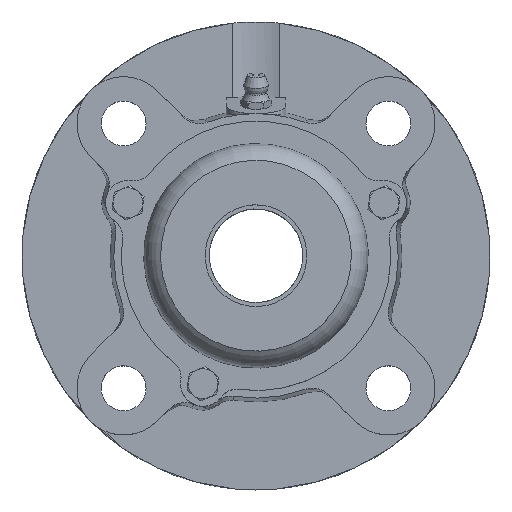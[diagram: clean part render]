
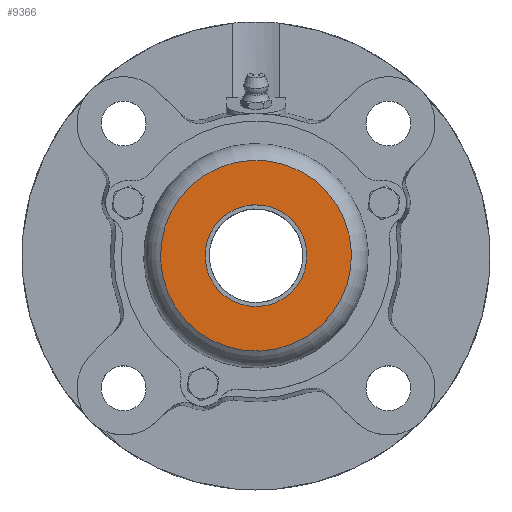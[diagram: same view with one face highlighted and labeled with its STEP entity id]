
A CAD part, top view. The second image highlights one B-rep face of the part: STEP entity #9366.
In plain terms, the highlighted planar face has unit normal (0, 0, 1).
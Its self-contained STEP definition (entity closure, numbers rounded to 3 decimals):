
#8611=CARTESIAN_POINT('',(13.6,0.,26.5));
#8612=VERTEX_POINT('',#8611);
#8613=CARTESIAN_POINT('',(0.0,0.0,26.5));
#8614=DIRECTION('',(0.0,0.0,-1.0));
#8615=DIRECTION('',(-1.0,0.0,0.0));
#8616=AXIS2_PLACEMENT_3D('',#8613,#8614,#8615);
#8617=CIRCLE('',#8616,13.6);
#8618=EDGE_CURVE('',#8612,#8612,#8617,.T.);
#9340=CARTESIAN_POINT('',(0.0,25.5,26.5));
#9341=VERTEX_POINT('',#9340);
#9342=CARTESIAN_POINT('',(0.0,0.,26.5));
#9343=DIRECTION('',(0.0,0.0,1.0));
#9344=DIRECTION('',(0.0,1.0,0.0));
#9345=AXIS2_PLACEMENT_3D('',#9342,#9343,#9344);
#9346=CIRCLE('',#9345,25.5);
#9347=EDGE_CURVE('',#9341,#9341,#9346,.T.);
#9355=CARTESIAN_POINT('',(0.,38.371,26.5));
#9356=DIRECTION('',(0.0,0.0,1.0));
#9357=DIRECTION('',(1.0,0.0,0.0));
#9358=AXIS2_PLACEMENT_3D('',#9355,#9356,#9357);
#9359=PLANE('',#9358);
#9360=ORIENTED_EDGE('',*,*,#9347,.T.);
#9361=EDGE_LOOP('',(#9360));
#9362=FACE_OUTER_BOUND('',#9361,.T.);
#9363=ORIENTED_EDGE('',*,*,#8618,.T.);
#9364=EDGE_LOOP('',(#9363));
#9365=FACE_BOUND('',#9364,.T.);
#9366=ADVANCED_FACE('',(#9362,#9365),#9359,.T.);
